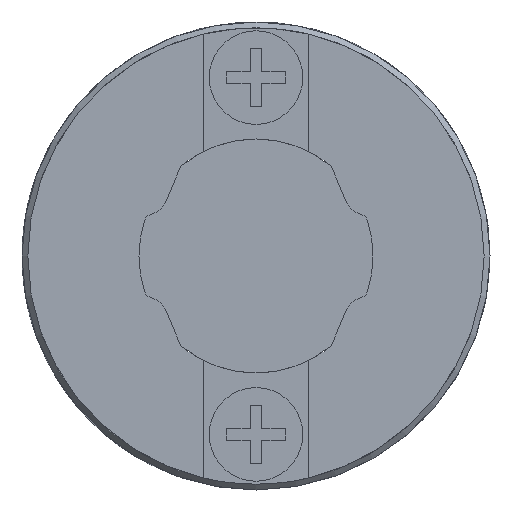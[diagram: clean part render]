
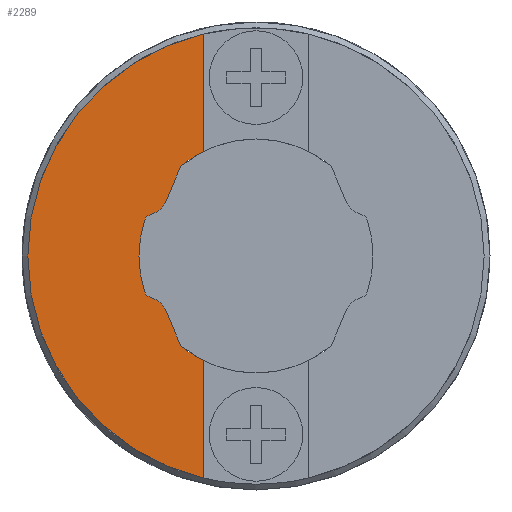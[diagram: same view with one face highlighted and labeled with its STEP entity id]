
A CAD part, left-side view. The second image highlights one B-rep face of the part: STEP entity #2289.
In plain terms, the highlighted planar face has unit normal (-1, 0, 0).
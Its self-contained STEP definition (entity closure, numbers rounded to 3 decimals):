
#52=PLANE('',#2492);
#181=LINE('',#3590,#413);
#182=LINE('',#3597,#414);
#183=LINE('',#3609,#415);
#184=LINE('',#3615,#416);
#413=VECTOR('',#2853,1000.);
#414=VECTOR('',#2858,1000.);
#415=VECTOR('',#2869,1000.);
#416=VECTOR('',#2874,1000.);
#761=ORIENTED_EDGE('',*,*,#1367,.T.);
#762=ORIENTED_EDGE('',*,*,#1368,.F.);
#763=ORIENTED_EDGE('',*,*,#1369,.F.);
#764=ORIENTED_EDGE('',*,*,#1370,.F.);
#765=ORIENTED_EDGE('',*,*,#1371,.T.);
#766=ORIENTED_EDGE('',*,*,#1372,.F.);
#767=ORIENTED_EDGE('',*,*,#1373,.F.);
#768=ORIENTED_EDGE('',*,*,#1374,.F.);
#769=ORIENTED_EDGE('',*,*,#1375,.T.);
#770=ORIENTED_EDGE('',*,*,#1376,.F.);
#771=ORIENTED_EDGE('',*,*,#1377,.F.);
#772=ORIENTED_EDGE('',*,*,#1378,.F.);
#773=ORIENTED_EDGE('',*,*,#1379,.T.);
#774=ORIENTED_EDGE('',*,*,#1380,.F.);
#1367=EDGE_CURVE('',#1679,#1680,#181,.T.);
#1368=EDGE_CURVE('',#1681,#1680,#1868,.F.);
#1369=EDGE_CURVE('',#1682,#1681,#1869,.F.);
#1370=EDGE_CURVE('',#1683,#1682,#182,.T.);
#1371=EDGE_CURVE('',#1683,#1684,#1870,.F.);
#1372=EDGE_CURVE('',#1685,#1684,#1871,.F.);
#1373=EDGE_CURVE('',#1686,#1685,#1872,.F.);
#1374=EDGE_CURVE('',#1687,#1686,#1873,.F.);
#1375=EDGE_CURVE('',#1687,#1688,#1874,.F.);
#1376=EDGE_CURVE('',#1689,#1688,#183,.T.);
#1377=EDGE_CURVE('',#1690,#1689,#1875,.F.);
#1378=EDGE_CURVE('',#1691,#1690,#1876,.F.);
#1379=EDGE_CURVE('',#1691,#1692,#184,.T.);
#1380=EDGE_CURVE('',#1679,#1692,#1877,.T.);
#1679=VERTEX_POINT('',#3591);
#1680=VERTEX_POINT('',#3592);
#1681=VERTEX_POINT('',#3594);
#1682=VERTEX_POINT('',#3596);
#1683=VERTEX_POINT('',#3598);
#1684=VERTEX_POINT('',#3600);
#1685=VERTEX_POINT('',#3602);
#1686=VERTEX_POINT('',#3604);
#1687=VERTEX_POINT('',#3606);
#1688=VERTEX_POINT('',#3608);
#1689=VERTEX_POINT('',#3610);
#1690=VERTEX_POINT('',#3612);
#1691=VERTEX_POINT('',#3614);
#1692=VERTEX_POINT('',#3616);
#1868=CIRCLE('',#2493,2.);
#1869=CIRCLE('',#2494,0.15);
#1870=CIRCLE('',#2495,0.42);
#1871=CIRCLE('',#2496,0.15);
#1872=CIRCLE('',#2497,2.);
#1873=CIRCLE('',#2498,0.15);
#1874=CIRCLE('',#2499,0.42);
#1875=CIRCLE('',#2500,0.15);
#1876=CIRCLE('',#2501,2.);
#1877=CIRCLE('',#2502,3.9);
#1948=EDGE_LOOP('',(#761,#762,#763,#764,#765,#766,#767,#768,#769,#770,#771,
#772,#773,#774));
#2100=FACE_BOUND('',#1948,.T.);
#2289=ADVANCED_FACE('',(#2100),#52,.F.);
#2492=AXIS2_PLACEMENT_3D('',#3589,#2851,#2852);
#2493=AXIS2_PLACEMENT_3D('',#3593,#2854,#2855);
#2494=AXIS2_PLACEMENT_3D('',#3595,#2856,#2857);
#2495=AXIS2_PLACEMENT_3D('',#3599,#2859,#2860);
#2496=AXIS2_PLACEMENT_3D('',#3601,#2861,#2862);
#2497=AXIS2_PLACEMENT_3D('',#3603,#2863,#2864);
#2498=AXIS2_PLACEMENT_3D('',#3605,#2865,#2866);
#2499=AXIS2_PLACEMENT_3D('',#3607,#2867,#2868);
#2500=AXIS2_PLACEMENT_3D('',#3611,#2870,#2871);
#2501=AXIS2_PLACEMENT_3D('',#3613,#2872,#2873);
#2502=AXIS2_PLACEMENT_3D('',#3617,#2875,#2876);
#2851=DIRECTION('',(1.,0.,0.));
#2852=DIRECTION('',(0.,0.,-1.));
#2853=DIRECTION('',(0.,0.,1.));
#2854=DIRECTION('',(1.,0.,0.));
#2855=DIRECTION('',(0.,0.,-1.));
#2856=DIRECTION('',(1.,0.,0.));
#2857=DIRECTION('',(0.,0.,-1.));
#2858=DIRECTION('',(0.,-0.386,-0.923));
#2859=DIRECTION('',(1.,0.,0.));
#2860=DIRECTION('',(0.,0.,-1.));
#2861=DIRECTION('',(1.,0.,0.));
#2862=DIRECTION('',(0.,0.,-1.));
#2863=DIRECTION('',(1.,0.,0.));
#2864=DIRECTION('',(0.,0.,-1.));
#2865=DIRECTION('',(1.,0.,0.));
#2866=DIRECTION('',(0.,0.,-1.));
#2867=DIRECTION('',(1.,0.,0.));
#2868=DIRECTION('',(0.,0.,-1.));
#2869=DIRECTION('',(0.,0.386,-0.923));
#2870=DIRECTION('',(1.,0.,0.));
#2871=DIRECTION('',(0.,0.,-1.));
#2872=DIRECTION('',(1.,0.,0.));
#2873=DIRECTION('',(0.,0.,-1.));
#2874=DIRECTION('',(0.,0.,1.));
#2875=DIRECTION('',(1.,0.,0.));
#2876=DIRECTION('',(0.,0.,-1.));
#3589=CARTESIAN_POINT('',(-6.,0.,0.));
#3590=CARTESIAN_POINT('',(-6.,0.9,-8.));
#3591=CARTESIAN_POINT('',(-6.,0.9,-3.795));
#3592=CARTESIAN_POINT('',(-6.,0.9,-1.786));
#3593=CARTESIAN_POINT('',(-6.,0.,0.));
#3594=CARTESIAN_POINT('',(-6.,1.286,-1.532));
#3595=CARTESIAN_POINT('',(-6.,1.16,-1.45));
#3596=CARTESIAN_POINT('',(-6.,1.298,-1.508));
#3597=CARTESIAN_POINT('',(-6.,1.642,-0.687));
#3598=CARTESIAN_POINT('',(-6.,1.533,-0.948));
#3599=CARTESIAN_POINT('',(-6.,1.92,-1.11));
#3600=CARTESIAN_POINT('',(-6.,1.804,-0.706));
#3601=CARTESIAN_POINT('',(-6.,1.763,-0.562));
#3602=CARTESIAN_POINT('',(-6.,1.905,-0.608));
#3603=CARTESIAN_POINT('',(-6.,0.,0.));
#3604=CARTESIAN_POINT('',(-6.,1.905,0.608));
#3605=CARTESIAN_POINT('',(-6.,1.763,0.562));
#3606=CARTESIAN_POINT('',(-6.,1.804,0.706));
#3607=CARTESIAN_POINT('',(-6.,1.92,1.11));
#3608=CARTESIAN_POINT('',(-6.,1.533,0.948));
#3609=CARTESIAN_POINT('',(-6.,1.642,0.687));
#3610=CARTESIAN_POINT('',(-6.,1.298,1.508));
#3611=CARTESIAN_POINT('',(-6.,1.16,1.45));
#3612=CARTESIAN_POINT('',(-6.,1.286,1.532));
#3613=CARTESIAN_POINT('',(-6.,0.,0.));
#3614=CARTESIAN_POINT('',(-6.,0.9,1.786));
#3615=CARTESIAN_POINT('',(-6.,0.9,-8.));
#3616=CARTESIAN_POINT('',(-6.,0.9,3.795));
#3617=CARTESIAN_POINT('',(-6.,0.,0.));
